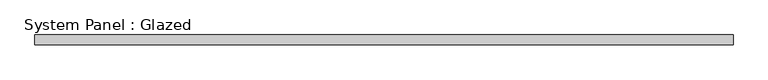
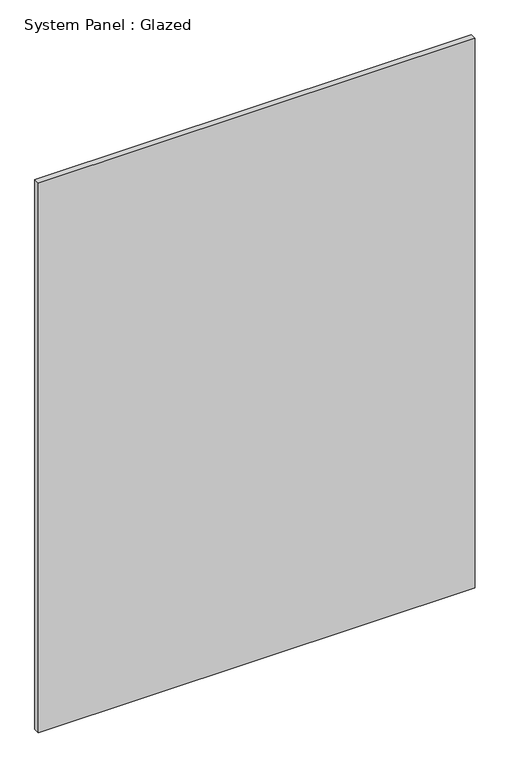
"""IFC4 building model written with IfcOpenShell, lengths in millimetres: plate geometry, System Panel : Glazed."""

from ifc_helpers import new_model, si_unit, origin, origin_with_axes, place, context, project, spatial, polyline, outline, extrude, source, transform, mapped, element, save


def system_panel_glazed_d5b91e72(model_context):
    return source(origin(), model_context, "Body", "SweptSolid", [
        extrude(outline(polyline([(891.9986512, 19.05), (-891.9986512, 19.05), (-891.9986512, 44.45), (891.9986512, 44.45), (891.9986512, 19.05)])), origin_with_axes(), (0.0, 0.0, 1.0), 2374.7638735),
    ])


if __name__ == "__main__":
    model = new_model("IFC4")
    model_context = context("Model", 3, world=origin())
    ifc_project = project(units=[si_unit("LENGTHUNIT", "METRE", prefix="MILLI")], contexts=[model_context])
    site = spatial("IfcSite", under=ifc_project)
    building = spatial("IfcBuilding", under=site)
    placement = place(None, origin())
    system_panel_glazed_shape = system_panel_glazed_d5b91e72(model_context)
    element("IfcPlate", 1, ObjectType="System Panel : Glazed", at=placement, inside=building, context=model_context, shape_type="MappedRepresentation", body=[
        mapped(system_panel_glazed_shape, transform((0.0, 0.0, 0.0), x_axis=(1.0, 0.0, 0.0), y_axis=(0.0, 1.0, 0.0), z_axis=(0.0, 0.0, 1.0))),
    ])
    save(model, "model.ifc")
